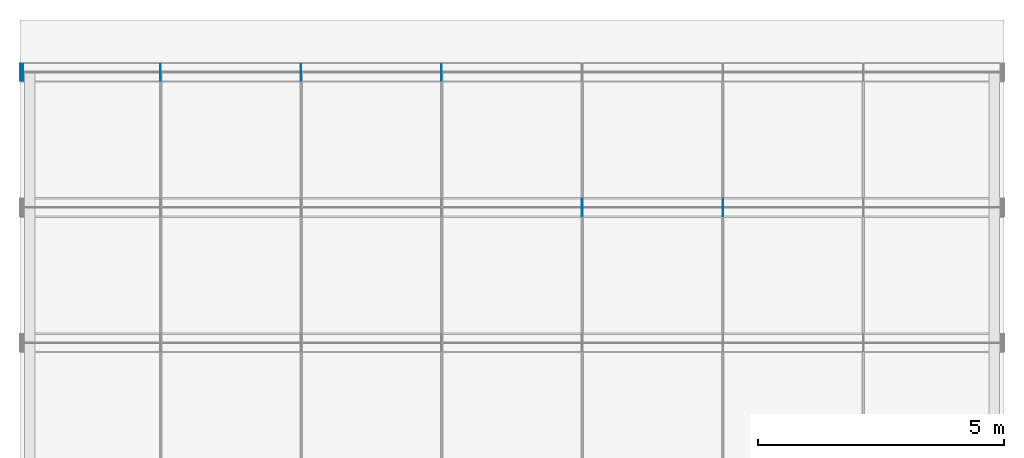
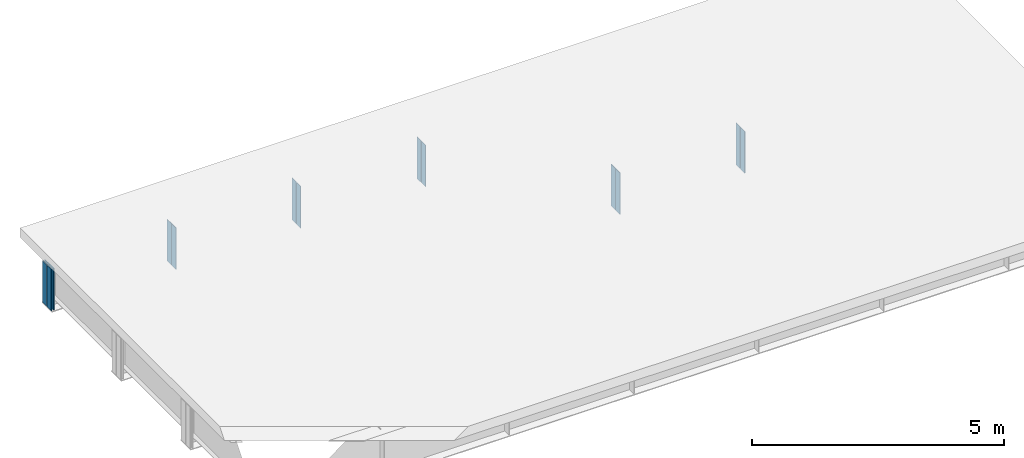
# One storey, part 10 of 12: 14 plates.
"""IFC4 building model written with IfcOpenShell, lengths in metres."""

from ifc_helpers import new_model, si_unit, frame, origin, origin_with_axes, origin_2d_with_axis, place, context, subcontext, project, spatial, rectangle, extrude, element, save


model = new_model("IFC4")

# Units and contexts
model_context = context("Model", 3, precision=1e-05, world=origin())
body_context = subcontext(model_context, "Body", "Model", "MODEL_VIEW")
ifc_project = project(units=[si_unit("LENGTHUNIT", "METRE"), si_unit("AREAUNIT", "SQUARE_METRE"), si_unit("VOLUMEUNIT", "CUBIC_METRE"), si_unit("PLANEANGLEUNIT", "RADIAN")], contexts=[model_context])

# Site, building, storey
site_placement = place(None, origin_with_axes())
site = spatial("IfcSite", under=ifc_project, at=site_placement, Name="Default Site")
building_placement = place(site_placement, origin_with_axes())
building = spatial("IfcBuilding", under=site, at=building_placement, Name="Bridge Structure")
storey_placement = place(building_placement, origin_with_axes())
storey = spatial("IfcBuildingStorey", under=building, at=storey_placement, Name="Superstructure")

# Plates
for number, where, z_axis, x_axis, name in (
    (1, (11.428, 1.4655, -0.505), (0.0, 0.0, 1.0), (1.0, 0.0, 0.0), "Intermediate Stiffener 3"),
    (2, (11.428, 1.2845, -0.505), (0.0, 0.0, 1.0), (1.0, 0.0, 0.0), "Intermediate Stiffener 3"),
    (3, (14.285, 1.4655, -0.505), (0.0, 0.0, 1.0), (1.0, 0.0, 0.0), "Intermediate Stiffener 3"),
    (4, (14.285, 1.2845, -0.505), (0.0, 0.0, 1.0), (1.0, 0.0, 0.0), "Intermediate Stiffener 3"),
    (5, (2.857, 4.2155000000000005, -0.505), (0.0, 0.0, 1.0), (1.0, 0.0, 0.0), "Intermediate Stiffener 4"),
    (6, (2.857, 4.0345, -0.505), (0.0, 0.0, 1.0), (1.0, 0.0, 0.0), "Intermediate Stiffener 4"),
    (7, (5.714, 4.2155000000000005, -0.505), (0.0, 0.0, 1.0), (1.0, 0.0, 0.0), "Intermediate Stiffener 4"),
    (8, (5.714, 4.0345, -0.505), (0.0, 0.0, 1.0), (1.0, 0.0, 0.0), "Intermediate Stiffener 4"),
    (9, (8.571, 4.2155000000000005, -0.505), (0.0, 0.0, 1.0), (1.0, 0.0, 0.0), "Intermediate Stiffener 4"),
    (10, (8.571, 4.0345, -0.505), (0.0, 0.0, 1.0), (1.0, 0.0, 0.0), "Intermediate Stiffener 4"),
):
    element("IfcPlate", number, at=place(storey_placement, frame(where, z_axis=z_axis, x_axis=x_axis)), inside=storey, Name=name, context=body_context, shape_type="SweptSolid", body=[
        extrude(rectangle(XDim=0.012, YDim=0.169, at=origin_2d_with_axis()), origin_with_axes(), (0.0, 0.0, 1.0), 1.01),
    ])
for number, where, z_axis, x_axis, name in (
    (11, (0.01, 4.2155000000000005, -0.505), (0.0, 0.0, 1.0), (1.0, 0.0, 0.0), "End Stiffener 4"),
    (12, (0.01, 4.0345, -0.505), (0.0, 0.0, 1.0), (1.0, 0.0, 0.0), "End Stiffener 4"),
    (13, (0.06, 4.2155000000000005, -0.505), (0.0, 0.0, 1.0), (1.0, 0.0, 0.0), "End Stiffener 4"),
    (14, (0.06, 4.0345, -0.505), (0.0, 0.0, 1.0), (1.0, 0.0, 0.0), "End Stiffener 4"),
):
    element("IfcPlate", number, at=place(storey_placement, frame(where, z_axis=z_axis, x_axis=x_axis)), inside=storey, Name=name, context=body_context, shape_type="SweptSolid", body=[
        extrude(rectangle(XDim=0.02, YDim=0.169, at=origin_2d_with_axis()), origin_with_axes(), (0.0, 0.0, 1.0), 1.01),
    ])

save(model, "model.ifc")
